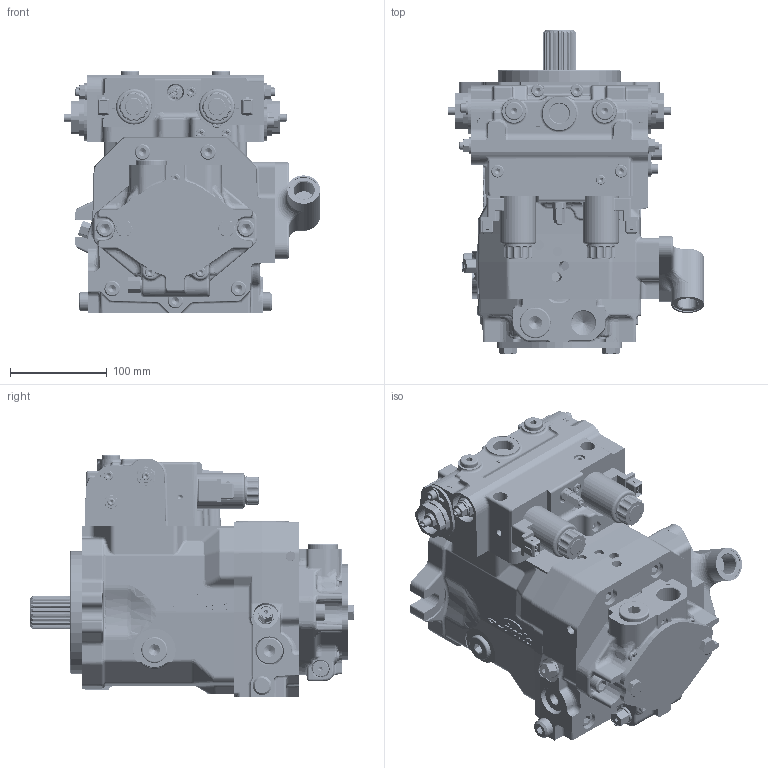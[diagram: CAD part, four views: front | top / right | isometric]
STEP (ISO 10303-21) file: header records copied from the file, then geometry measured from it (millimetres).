
FILE_DESCRIPTION(/* description */ (''),/* implementation_level */ '2;1');
FILE_NAME(/* name */ '2628055074m355.stp',/* time_stamp */ '2012-03-30T13:29:00+02:00',/* author */ (''),/* organization */ (''),/* preprocessor_version */ 'ST-DEVELOPER v11',/* originating_system */ 'SIEMENS PLM Software NX 7.5',/* authorisation */ '');
FILE_SCHEMA (('AUTOMOTIVE_DESIGN { 1 0 10303 214 1 1 1 1 }'));
Products named in the file (1): 2628055074m355
Bounding box: 265.5 x 335.27 x 251.3 mm (x, y, z)
Volume: 8552675.4 mm3; surface area: 654861.1 mm2
Topology: 12 solids, 20 shells, 4704 faces, 11369 edges, 6855 vertices
Faces by surface type: plane 1562, cylinder 1373, bspline 664, cone 453, torus 361, extrusion 150, revolution 72, sphere 69
Full cylindrical faces by diameter (mm): 2.5 x2, 4 x4, 5 x18, 6 x10, 6.4 x3, 6.8 x2, 7 x1, 7.1 x1, 8 x17, 8.2 x8, 8.5 x12, 8.782 x1, 9.9 x13, 10 x27, 10.2 x4, 10.5 x1, 10.7 x5, 11 x11, 11.7 x2, 12 x12, 12.1 x2, 12.5 x8, 12.8 x2, 13 x8, 13.5 x1, 14 x3, 14.5 x1, 14.8 x1, 15 x5, 16 x7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
Entity records: 151439 total; most frequent: CARTESIAN_POINT 50264, ORIENTED_EDGE 20922, DIRECTION 20195, EDGE_CURVE 10461, AXIS2_PLACEMENT_3D 8041, VERTEX_POINT 6666, EDGE_LOOP 5551, ADVANCED_FACE 4704
